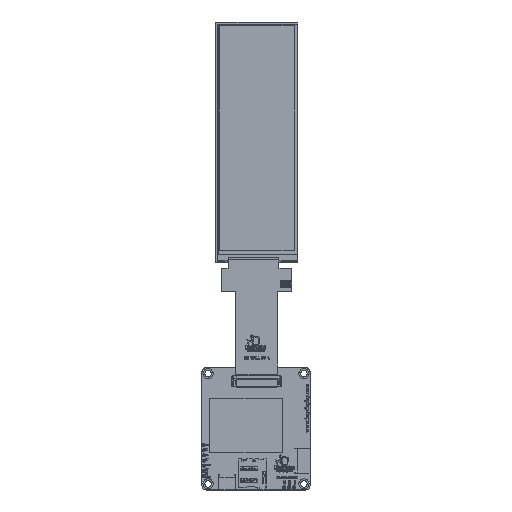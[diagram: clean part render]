
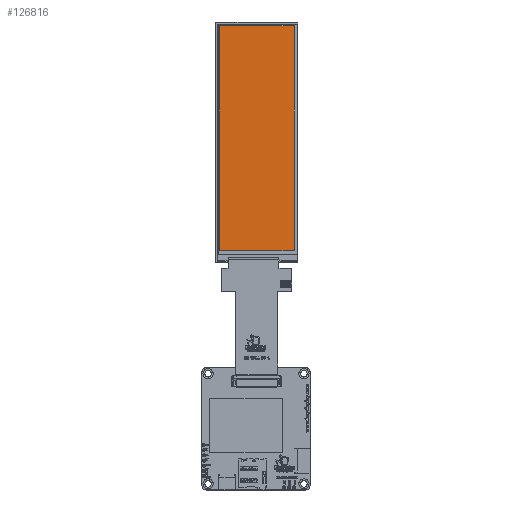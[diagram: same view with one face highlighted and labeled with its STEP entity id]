
A CAD part, top view. The second image highlights one B-rep face of the part: STEP entity #126816.
In plain terms, the highlighted planar face has unit normal (0, 0, 1).
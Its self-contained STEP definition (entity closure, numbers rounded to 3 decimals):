
#3194 = EDGE_LOOP ( 'NONE', ( #96721, #176941, #105397, #251034 ) ) ;
#14468 = CARTESIAN_POINT ( 'NONE',  ( 0., -53.15, 2.03 ) ) ;
#18153 = VERTEX_POINT ( 'NONE', #56282 ) ;
#26702 = CARTESIAN_POINT ( 'NONE',  ( -18.385, -53.15, 2.03 ) ) ;
#29535 = EDGE_CURVE ( 'NONE', #105609, #18153, #219884, .T. ) ;
#30078 = CARTESIAN_POINT ( 'NONE',  ( 0., 57.15, 2.03 ) ) ;
#34766 = VERTEX_POINT ( 'NONE', #265739 ) ;
#51384 = DIRECTION ( 'NONE',  ( 0., -1., 0. ) ) ;
#54525 = VECTOR ( 'NONE', #238273, 1000. ) ;
#56282 = CARTESIAN_POINT ( 'NONE',  ( 18.385, 57.15, 2.03 ) ) ;
#59748 = VERTEX_POINT ( 'NONE', #26702 ) ;
#73419 = CARTESIAN_POINT ( 'NONE',  ( 18.385, 0., 2.03 ) ) ;
#74787 = FACE_OUTER_BOUND ( 'NONE', #3194, .T. ) ;
#96721 = ORIENTED_EDGE ( 'NONE', *, *, #115389, .F. ) ;
#99467 = CARTESIAN_POINT ( 'NONE',  ( 0., 0., 2.03 ) ) ;
#105397 = ORIENTED_EDGE ( 'NONE', *, *, #245344, .F. ) ;
#105609 = VERTEX_POINT ( 'NONE', #181556 ) ;
#115389 = EDGE_CURVE ( 'NONE', #59748, #105609, #212141, .T. ) ;
#120093 = PLANE ( 'NONE',  #215760 ) ;
#126816 = ADVANCED_FACE ( 'NONE', ( #74787 ), #120093, .T. ) ;
#135660 = LINE ( 'NONE', #14468, #167968 ) ;
#138060 = DIRECTION ( 'NONE',  ( 1., 0., 0. ) ) ;
#144742 = VECTOR ( 'NONE', #259902, 1000. ) ;
#167968 = VECTOR ( 'NONE', #201590, 1000. ) ;
#174910 = EDGE_CURVE ( 'NONE', #34766, #59748, #135660, .T. ) ;
#176941 = ORIENTED_EDGE ( 'NONE', *, *, #174910, .F. ) ;
#181556 = CARTESIAN_POINT ( 'NONE',  ( -18.385, 57.15, 2.03 ) ) ;
#201247 = LINE ( 'NONE', #73419, #236927 ) ;
#201590 = DIRECTION ( 'NONE',  ( -1., 0., 0. ) ) ;
#212141 = LINE ( 'NONE', #254882, #54525 ) ;
#215760 = AXIS2_PLACEMENT_3D ( 'NONE', #99467, #241264, #138060 ) ;
#219884 = LINE ( 'NONE', #30078, #144742 ) ;
#236927 = VECTOR ( 'NONE', #51384, 1000. ) ;
#238273 = DIRECTION ( 'NONE',  ( 0., 1., 0. ) ) ;
#241264 = DIRECTION ( 'NONE',  ( 0., 0., 1. ) ) ;
#245344 = EDGE_CURVE ( 'NONE', #18153, #34766, #201247, .T. ) ;
#251034 = ORIENTED_EDGE ( 'NONE', *, *, #29535, .F. ) ;
#254882 = CARTESIAN_POINT ( 'NONE',  ( -18.385, 0., 2.03 ) ) ;
#259902 = DIRECTION ( 'NONE',  ( 1., 0., 0. ) ) ;
#265739 = CARTESIAN_POINT ( 'NONE',  ( 18.385, -53.15, 2.03 ) ) ;
